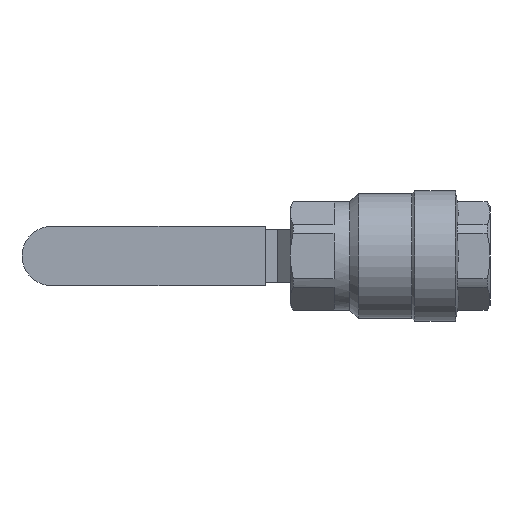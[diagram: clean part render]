
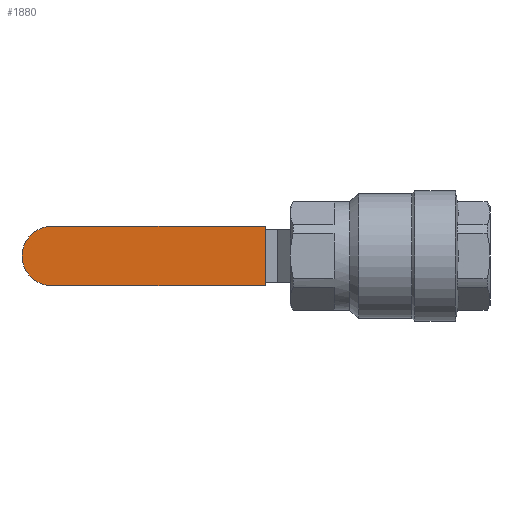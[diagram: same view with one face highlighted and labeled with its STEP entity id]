
A CAD part, front view. The second image highlights one B-rep face of the part: STEP entity #1880.
In plain terms, the highlighted planar face has unit normal (0, -1, 0).
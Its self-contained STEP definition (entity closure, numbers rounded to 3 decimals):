
#115 = VECTOR ( 'NONE', #3192, 1000. ) ;
#276 = CARTESIAN_POINT ( 'NONE',  ( -108.5, 61.7, 9.5 ) ) ;
#676 = CARTESIAN_POINT ( 'NONE',  ( -40., 61.7, 9.5 ) ) ;
#690 = ORIENTED_EDGE ( 'NONE', *, *, #1420, .F. ) ;
#729 = DIRECTION ( 'NONE',  ( 1., 0., 0. ) ) ;
#740 = DIRECTION ( 'NONE',  ( 0., -1., 0. ) ) ;
#758 = VERTEX_POINT ( 'NONE', #1236 ) ;
#768 = EDGE_LOOP ( 'NONE', ( #2390, #1470, #2730, #690 ) ) ;
#771 = VECTOR ( 'NONE', #729, 1000. ) ;
#802 = DIRECTION ( 'NONE',  ( 0., 1., 0. ) ) ;
#1065 = LINE ( 'NONE', #3590, #3478 ) ;
#1236 = CARTESIAN_POINT ( 'NONE',  ( -108.5, 61.7, -9.5 ) ) ;
#1315 = PLANE ( 'NONE',  #4067 ) ;
#1412 = CARTESIAN_POINT ( 'NONE',  ( -40., 61.7, 9.5 ) ) ;
#1420 = EDGE_CURVE ( 'NONE', #2061, #1743, #3487, .T. ) ;
#1468 = VERTEX_POINT ( 'NONE', #276 ) ;
#1470 = ORIENTED_EDGE ( 'NONE', *, *, #1571, .T. ) ;
#1571 = EDGE_CURVE ( 'NONE', #1468, #758, #3198, .T. ) ;
#1617 = LINE ( 'NONE', #3876, #771 ) ;
#1730 = CARTESIAN_POINT ( 'NONE',  ( -40., 61.7, -9.5 ) ) ;
#1743 = VERTEX_POINT ( 'NONE', #1730 ) ;
#1880 = ADVANCED_FACE ( 'NONE', ( #2842 ), #1315, .F. ) ;
#2061 = VERTEX_POINT ( 'NONE', #1412 ) ;
#2390 = ORIENTED_EDGE ( 'NONE', *, *, #3023, .F. ) ;
#2499 = CARTESIAN_POINT ( 'NONE',  ( -118., 61.7, 9.5 ) ) ;
#2654 = DIRECTION ( 'NONE',  ( 1., 0., 0. ) ) ;
#2730 = ORIENTED_EDGE ( 'NONE', *, *, #3656, .T. ) ;
#2842 = FACE_OUTER_BOUND ( 'NONE', #768, .T. ) ;
#3023 = EDGE_CURVE ( 'NONE', #1468, #2061, #1065, .T. ) ;
#3192 = DIRECTION ( 'NONE',  ( 0., 0., -1. ) ) ;
#3198 = CIRCLE ( 'NONE', #3302, 9.5 ) ;
#3302 = AXIS2_PLACEMENT_3D ( 'NONE', #3604, #740, #3568 ) ;
#3478 = VECTOR ( 'NONE', #2654, 1000. ) ;
#3487 = LINE ( 'NONE', #676, #115 ) ;
#3568 = DIRECTION ( 'NONE',  ( 0., 0., 1. ) ) ;
#3590 = CARTESIAN_POINT ( 'NONE',  ( -118., 61.7, 9.5 ) ) ;
#3604 = CARTESIAN_POINT ( 'NONE',  ( -108.5, 61.7, 0. ) ) ;
#3656 = EDGE_CURVE ( 'NONE', #758, #1743, #1617, .T. ) ;
#3854 = DIRECTION ( 'NONE',  ( 0., 0., 1. ) ) ;
#3876 = CARTESIAN_POINT ( 'NONE',  ( -118., 61.7, -9.5 ) ) ;
#4067 = AXIS2_PLACEMENT_3D ( 'NONE', #2499, #802, #3854 ) ;
